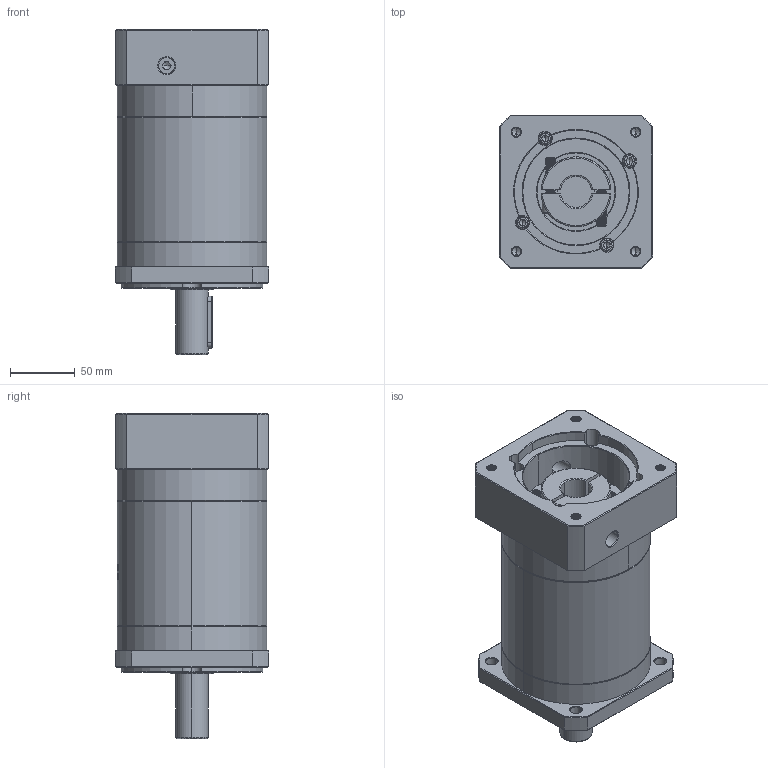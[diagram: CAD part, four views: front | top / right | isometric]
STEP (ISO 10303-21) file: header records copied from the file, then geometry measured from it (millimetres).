
FILE_DESCRIPTION (( 'STEP AP214' ), '1' );
FILE_NAME ('ZF120A-D25-L3-P2-24-95-130-M8.step', '2023-08-27T04:42:55', ( '' ), ( '' ), 'SwSTEP 2.0', 'SolidWorks 2016', '' );
FILE_SCHEMA (( 'AUTOMOTIVE_DESIGN' ));
Length unit declared in the file: millimetre
Products named in the file (1): ZF120A-D25-L3-P2-24-95-130-M8
Bounding box: 118 x 118 x 250.5 mm (x, y, z)
Volume: 2051504.8 mm3; surface area: 186739.2 mm2
Topology: 6 solids, 6 shells, 2225 faces, 5918 edges, 3794 vertices
Faces by surface type: plane 1034, cylinder 425, bspline 419, cone 327, torus 20
Entity records: 123084 total; most frequent: CARTESIAN_POINT 48694, ORIENTED_EDGE 11776, DIRECTION 8538, EDGE_CURVE 5888, VERTEX_POINT 3794, LINE 3098, VECTOR 3098, AXIS2_PLACEMENT_3D 2720
